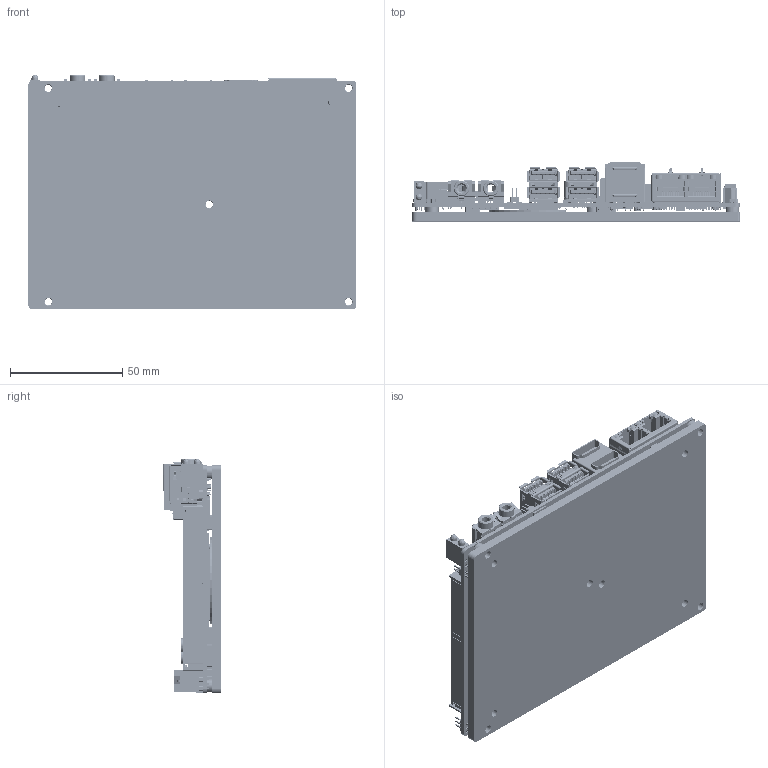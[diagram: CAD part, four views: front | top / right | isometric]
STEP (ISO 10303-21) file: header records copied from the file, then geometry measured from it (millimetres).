
FILE_DESCRIPTION((''),'2;1');
FILE_NAME('ECM-WHL_ASM','2019-10-09T14:29:31',('jamie_liao'),(''),'CREO PARAMETRIC BY PTC INC, 2017110','CREO PARAMETRIC BY PTC INC, 2017110','');
FILE_SCHEMA(('CONFIG_CONTROL_DESIGN','GEOMETRIC_VALIDATION_PROPERTIES_MIM'));
Products named in the file (49): A0_PCB_20190312; A0_PCB; ECM-WHL-A1_PCB; E1304400003H_1; E16D5I00301R; E1652528305R; E16A37D040DH; E16A37D0404H; E16BB671033H; E16BB671030H; E1613620001R; E1613520001R; WHISKEY_LAKE_MOILE_CPU; HDMI; LAN; USB; LED; E1613620000R; E1662510201H; E1667220301R; E1672620202R; 5PIN; E1664410000R_3; E16H1671300R; AUDIO_DXF; 4PIN; E16C4070000H; 3PIN; E1613310000R_1; E1662210201H_2; E1660210201H_1; SIM_6PIN_CME_2_1; SIM_K_CME_R_1; SIM_6PIN_L_R_1; 115G-AAAA-R_C_1_ASM_6_ASM; E1695060300H_ASM; E193A3601X0R; E193A231062R; E16F1038031R; ECM-WHL_HEATSPREADER-1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
Assembly tree (68 placements, depth 4):
  ECM-WHL_ASM
    A0_PCB_20190312
    A0_PCB
    ECM-WHL-A1_PCB
    E1304400003H_1
    E16D5I00301R  x2
    E1652528305R
    E16A37D040DH
    E16A37D0404H
    E16BB671033H
    E16BB671030H
    E1613620001R
    E1613520001R  x2
    WHISKEY_LAKE_MOILE_CPU
    HDMI
    LAN
    USB  x2
    LED
    E1613620000R
    E1662510201H
    E1667220301R
    E1672620202R
    5PIN
    E1664410000R_3
    E16H1671300R  x2
    AUDIO_DXF  x2
    4PIN
    E16C4070000H
    3PIN
    E1613310000R_1  x4
    E1662210201H_2  x2
    E1660210201H_1
    E1695060300H_ASM
      115G-AAAA-R_C_1_ASM_6_ASM
        SIM_6PIN_CME_2_1
        SIM_K_CME_R_1
        SIM_6PIN_L_R_1  x6
    E193A3601X0R  x2
    E193A231062R  x2
    E16F1038031R
    HEAT-SPREADER_ASM
      ECM-WHL_HEATSPREADER-1
      CU_39_FOR_SPREADER
      THERMAL_PAD_XR-HE-12X28X0_5T
    E1183627721H  x2
    E1212201028H  x2
    E121220222EH
    E1212204715H
    E1212201510H  x3
Bounding box: 146.05 x 26.14 x 104.4 mm (x, y, z)
Volume: 110611.2 mm3; surface area: 124596.8 mm2
Topology: 112 solids, 113 shells, 26403 faces, 73981 edges, 47932 vertices
Faces by surface type: plane 19469, cylinder 6193, bspline 478, torus 136, cone 87, sphere 24, extrusion 16
Entity records: 801438 total; most frequent: CARTESIAN_POINT 135937, ORIENTED_EDGE 117544, DIRECTION 108551, EDGE_CURVE 58772, VECTOR 47457, LINE 47445, VERTEX_POINT 38225, AXIS2_PLACEMENT_3D 30547
